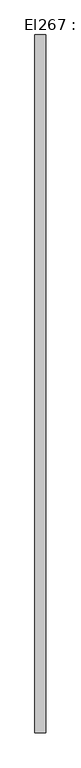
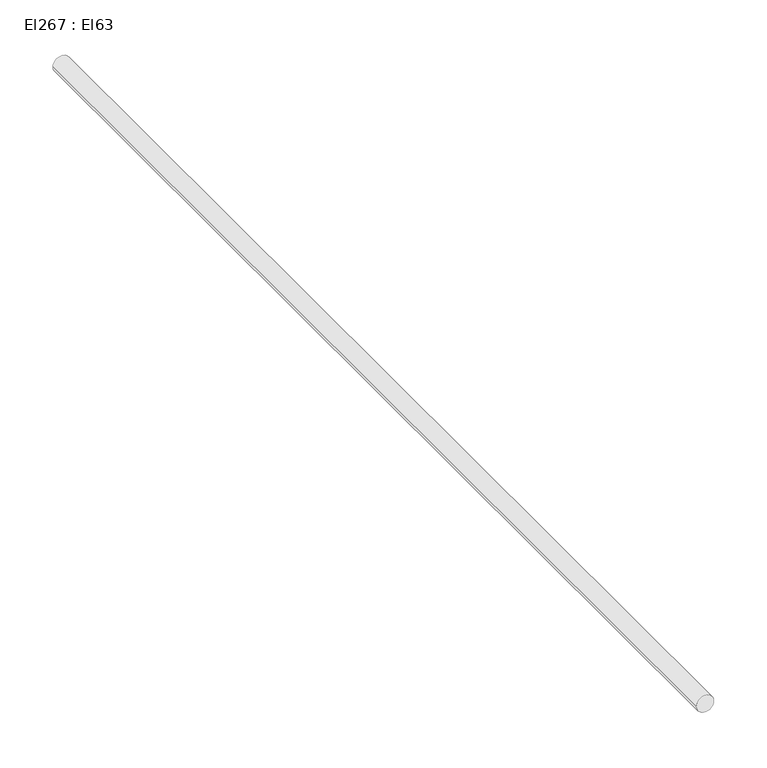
"""IFC4 building model written with IfcOpenShell, lengths in millimetres: cable carrier segment geometry, El267 : El63."""

from ifc_helpers import new_model, si_unit, point, frame, frame_2d, origin, place, context, project, spatial, circle_curve, trimmed, segment, composite_curve, outline, extrude, source, transform, mapped, element, save


def el267_el63_b8f4bee0(model_context):
    return source(origin(), model_context, "Body", "SweptSolid", [
        extrude(outline(composite_curve([segment(trimmed(circle_curve(frame_2d((2700.0, 11764.4746511)), 9.5), [point((2700.0, 11754.9746511))], [point((2700.0, 11773.9746511))], False, "CARTESIAN"), True, "CONTINUOUS"), segment(trimmed(circle_curve(frame_2d((2700.0, 11764.4746511)), 9.5), [point((2700.0, 11773.9746511))], [point((2700.0, 11754.9746511))], False, "CARTESIAN"), True, "CONTINUOUS")], self_intersect=False)), frame((0.0, 8182.7591745, 0.0), z_axis=(0.0, 1.0, 0.0), x_axis=(0.0, 0.0, 1.0)), (0.0, 0.0, 1.0), 1214.11),
    ])


if __name__ == "__main__":
    model = new_model("IFC4")
    model_context = context("Model", 3, world=origin())
    ifc_project = project(units=[si_unit("LENGTHUNIT", "METRE", prefix="MILLI")], contexts=[model_context])
    site = spatial("IfcSite", under=ifc_project)
    building = spatial("IfcBuilding", under=site)
    placement = place(None, origin())
    el267_el63_shape = el267_el63_b8f4bee0(model_context)
    element("IfcCableCarrierSegment", 1, ObjectType="El267 : El63", at=placement, inside=building, context=model_context, shape_type="MappedRepresentation", body=[
        mapped(el267_el63_shape, transform((0.0, 0.0, 0.0), x_axis=(1.0, 0.0, 0.0), y_axis=(0.0, 1.0, 0.0), z_axis=(0.0, 0.0, 1.0))),
    ])
    save(model, "model.ifc")
